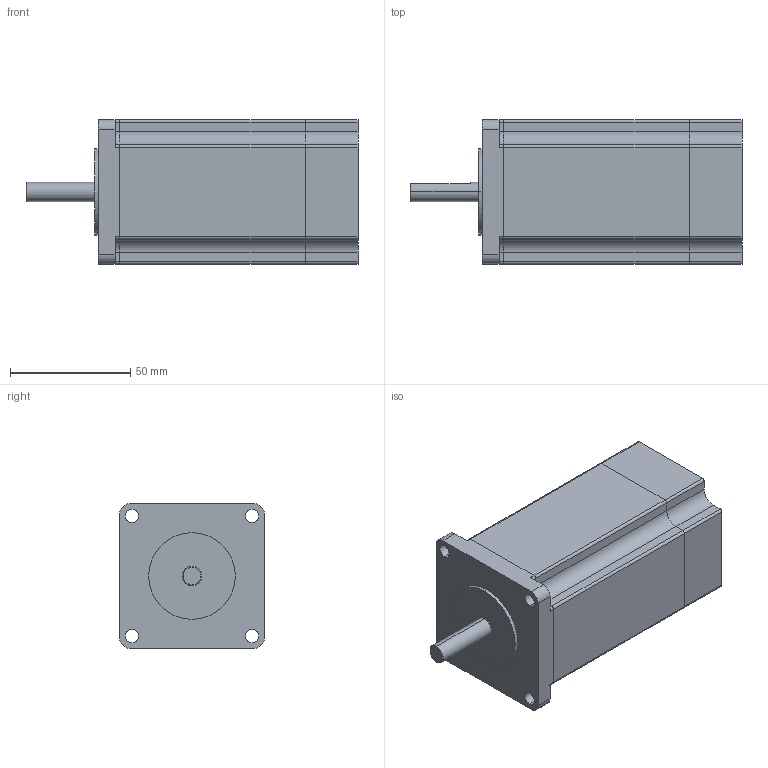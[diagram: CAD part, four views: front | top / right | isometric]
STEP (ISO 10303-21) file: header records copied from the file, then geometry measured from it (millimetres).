
FILE_DESCRIPTION (( 'STEP AP203' ), '1' );
FILE_NAME ('TM2402A50A-P1000.STEP', '2019-02-16T03:09:15', ( 'User' ), ( 'www.dadighost.com' ), 'SwSTEP 2.0', 'SolidWorks 2014', '' );
FILE_SCHEMA (( 'CONFIG_CONTROL_DESIGN' ));
Length unit declared in the file: millimetre
Products named in the file (1): TM2402A50A-P1000
Bounding box: 138 x 60 x 60 mm (x, y, z)
Volume: 349516.3 mm3; surface area: 45688.8 mm2
Topology: 3 solids, 3 shells, 105 faces, 289 edges, 192 vertices
Faces by surface type: cylinder 52, plane 50, cone 3
Entity records: 3467 total; most frequent: DIRECTION 608, CARTESIAN_POINT 593, ORIENTED_EDGE 578, EDGE_CURVE 289, AXIS2_PLACEMENT_3D 215, VERTEX_POINT 192, VECTOR 178, LINE 178
